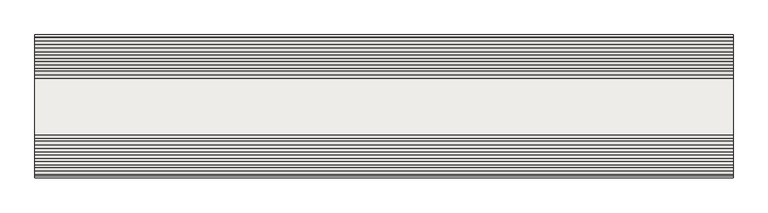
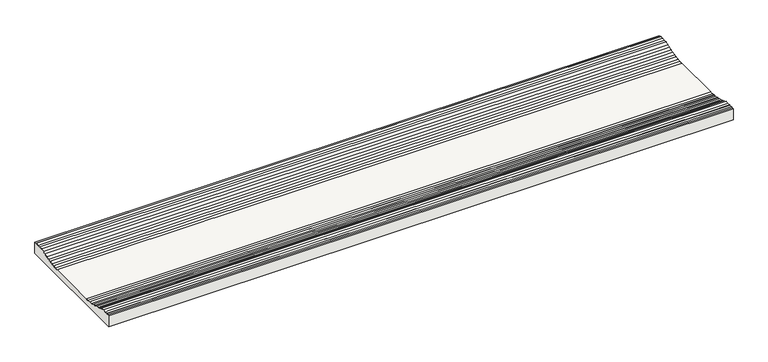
"""IFC4 building model written with IfcOpenShell, lengths in millimetres: slab geometry, ROSA GRES_204 : Pieza 204_Indugres_Indubeige_Tecno."""

from ifc_helpers import new_model, si_unit, point, frame, frame_2d, origin, place, context, project, spatial, polyline, circle_curve, trimmed, segment, composite_curve, outline, extrude, source, transform, mapped, element, save


def slab_419fe0f5(model_context):
    return source(origin(), model_context, "Body", "SweptSolid", [
        extrude(outline(composite_curve([segment(polyline([(0.0, 0.0), (0.0, 22.8672484), (3.4834385, 22.8672484)]), True, "CONTINUOUS"), segment(trimmed(circle_curve(frame_2d((3.4834385, 24.9459193)), 2.078671), [point((3.4834385, 22.8672484))], [point((5.3933441, 24.1254722))], True, "CARTESIAN"), True, "CONTINUOUS"), segment(trimmed(circle_curve(frame_2d((8.4772441, 27.2443435)), 4.3860914), [point((5.3933441, 24.1254722))], [point((11.4768535, 24.0443215))], True, "CARTESIAN"), True, "CONTINUOUS"), segment(trimmed(circle_curve(frame_2d((14.4834385, 27.2619892)), 4.4037415), [point((11.4768535, 24.0443215))], [point((17.4838192, 24.0385354))], True, "CARTESIAN"), True, "CONTINUOUS"), segment(trimmed(circle_curve(frame_2d((20.4772441, 27.2443435)), 4.3860914), [point((17.4838192, 24.0385354))], [point((23.5481555, 24.1126825))], True, "CARTESIAN"), True, "CONTINUOUS"), segment(trimmed(circle_curve(frame_2d((27.5873515, 25.8222711)), 4.3860914), [point((23.5481555, 24.1126825))], [point((29.0929084, 21.702672))], True, "CARTESIAN"), True, "CONTINUOUS"), segment(trimmed(circle_curve(frame_2d((32.9910112, 23.7132919)), 4.3860914), [point((29.0929084, 21.702672))], [point((34.6740913, 19.6629784))], True, "CARTESIAN"), True, "CONTINUOUS"), segment(trimmed(circle_curve(frame_2d((38.5344705, 21.7451095)), 4.3860914), [point((34.6740913, 19.6629784))], [point((40.406127, 17.7784107))], True, "CARTESIAN"), True, "CONTINUOUS"), segment(trimmed(circle_curve(frame_2d((44.1065968, 20.1330489)), 4.3860914), [point((40.406127, 17.7784107))], [point((46.146977, 16.2504407))], True, "CARTESIAN"), True, "CONTINUOUS"), segment(trimmed(circle_curve(frame_2d((49.7914497, 18.690854)), 4.3860914), [point((46.146977, 16.2504407))], [point((52.0386105, 14.9241491))], True, "CARTESIAN"), True, "CONTINUOUS"), segment(trimmed(circle_curve(frame_2d((55.5496933, 17.5528551)), 4.3860914), [point((52.0386105, 14.9241491))], [point((57.8759715, 13.8344915))], True, "CARTESIAN"), True, "CONTINUOUS"), segment(trimmed(circle_curve(frame_2d((61.3099097, 16.563203)), 4.3860914), [point((57.8759715, 13.8344915))], [point((63.8574067, 12.9927609))], True, "CARTESIAN"), True, "CONTINUOUS"), segment(trimmed(circle_curve(frame_2d((67.1546539, 15.8851576)), 4.3860914), [point((63.8574067, 12.9927609))], [point((69.7580788, 12.3552884))], True, "CARTESIAN"), True, "CONTINUOUS"), segment(trimmed(circle_curve(frame_2d((72.9411902, 15.372837)), 4.3860914), [point((69.7580788, 12.3552884))], [point((75.6586011, 11.9299493))], True, "CARTESIAN"), True, "CONTINUOUS"), segment(polyline([(75.6586011, 11.9299493), (174.3413989, 11.9299493)]), True, "CONTINUOUS"), segment(trimmed(circle_curve(frame_2d((177.0588098, 15.372837)), 4.3860914), [point((174.3413989, 11.9299493))], [point((180.2419212, 12.3552884))], True, "CARTESIAN"), True, "CONTINUOUS"), segment(trimmed(circle_curve(frame_2d((182.8453461, 15.8851576)), 4.3860914), [point((180.2419212, 12.3552884))], [point((186.1425933, 12.9927609))], True, "CARTESIAN"), True, "CONTINUOUS"), segment(trimmed(circle_curve(frame_2d((188.6900903, 16.563203)), 4.3860914), [point((186.1425933, 12.9927609))], [point((192.1240285, 13.8344915))], True, "CARTESIAN"), True, "CONTINUOUS"), segment(trimmed(circle_curve(frame_2d((194.4503067, 17.5528551)), 4.3860914), [point((192.1240285, 13.8344915))], [point((197.9613895, 14.9241491))], True, "CARTESIAN"), True, "CONTINUOUS"), segment(trimmed(circle_curve(frame_2d((200.2085503, 18.690854)), 4.3860914), [point((197.9613895, 14.9241491))], [point((203.853023, 16.2504407))], True, "CARTESIAN"), True, "CONTINUOUS"), segment(trimmed(circle_curve(frame_2d((205.8934032, 20.1330489)), 4.3860914), [point((203.853023, 16.2504407))], [point((209.593873, 17.7784107))], True, "CARTESIAN"), True, "CONTINUOUS"), segment(trimmed(circle_curve(frame_2d((211.4655295, 21.7451095)), 4.3860914), [point((209.593873, 17.7784107))], [point((215.3259087, 19.6629784))], True, "CARTESIAN"), True, "CONTINUOUS"), segment(trimmed(circle_curve(frame_2d((217.0089888, 23.7132919)), 4.3860914), [point((215.3259087, 19.6629784))], [point((220.9070916, 21.702672))], True, "CARTESIAN"), True, "CONTINUOUS"), segment(trimmed(circle_curve(frame_2d((222.4126485, 25.8222711)), 4.3860914), [point((220.9070916, 21.702672))], [point((226.4518445, 24.1126825))], True, "CARTESIAN"), True, "CONTINUOUS"), segment(trimmed(circle_curve(frame_2d((229.5227559, 27.2443435)), 4.3860914), [point((226.4518445, 24.1126825))], [point((232.5161808, 24.0385354))], True, "CARTESIAN"), True, "CONTINUOUS"), segment(trimmed(circle_curve(frame_2d((235.5165615, 27.2619892)), 4.4037415), [point((232.5161808, 24.0385354))], [point((238.5231465, 24.0443215))], True, "CARTESIAN"), True, "CONTINUOUS"), segment(trimmed(circle_curve(frame_2d((241.5227559, 27.2443435)), 4.3860914), [point((238.5231465, 24.0443215))], [point((244.6066559, 24.1254722))], True, "CARTESIAN"), True, "CONTINUOUS"), segment(trimmed(circle_curve(frame_2d((246.5165615, 24.9459193)), 2.078671), [point((244.6066559, 24.1254722))], [point((246.5165615, 22.8672484))], True, "CARTESIAN"), True, "CONTINUOUS"), segment(polyline([(246.5165615, 22.8672484), (250.0, 22.8672484), (250.0, 0.0), (0.0, 0.0)]), True, "CONTINUOUS")], self_intersect=False)), frame((0.0, 0.0, 0.0), z_axis=(1.0, 0.0, 0.0), x_axis=(0.0, 1.0, 0.0)), (0.0, 0.0, 1.0), 1219.9734114),
    ])


if __name__ == "__main__":
    model = new_model("IFC4")
    model_context = context("Model", 3, world=origin())
    ifc_project = project(units=[si_unit("LENGTHUNIT", "METRE", prefix="MILLI")], contexts=[model_context])
    site = spatial("IfcSite", under=ifc_project)
    building = spatial("IfcBuilding", under=site)
    placement = place(None, origin())
    slab_shape = slab_419fe0f5(model_context)
    element("IfcSlab", 1, ObjectType="ROSA GRES_204 : Pieza 204_Indugres_Indubeige_Tecno", at=placement, inside=building, context=model_context, shape_type="MappedRepresentation", body=[
        mapped(slab_shape, transform((0.0, 0.0, 0.0), x_axis=(1.0, 0.0, 0.0), y_axis=(0.0, 1.0, 0.0), z_axis=(0.0, 0.0, 1.0))),
    ])
    save(model, "model.ifc")
